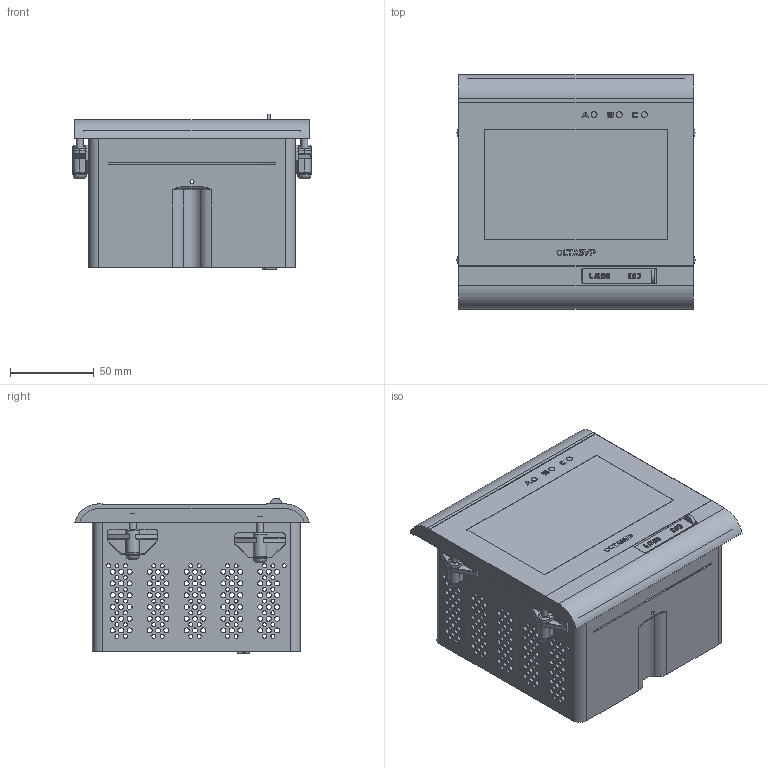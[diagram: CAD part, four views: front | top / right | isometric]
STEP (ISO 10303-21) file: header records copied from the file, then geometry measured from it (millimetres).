
FILE_DESCRIPTION (( 'STEP AP214' ), '1' );
FILE_NAME ('Á17-00.00_PLÑ 5i 03.00.STEP', '2023-10-06T11:30:30', ( '' ), ( '' ), 'SwSTEP 2.0', 'SolidWorks 2021', '' );
FILE_SCHEMA (( 'AUTOMOTIVE_DESIGN' ));
Length unit declared in the file: millimetre
Products named in the file (1): Á17-00.00_PLÑ 5i 03.00
Bounding box: 142 x 140 x 93 mm (x, y, z)
Surface area: 194591.7 mm2 (no closed solid volume)
Topology: 0 solids, 62 shells, 1260 faces, 5932 edges, 4630 vertices
Faces by surface type: plane 635, cylinder 525, bspline 60, cone 22, torus 18
Full cylindrical faces by diameter (mm): 2.4 x146, 2.5 x4, 3 x180, 3.6 x1, 4 x4, 5.5 x9, 8 x4
Entity records: 74635 total; most frequent: CARTESIAN_POINT 18471, DIRECTION 8123, ORIENTED_EDGE 7381, EDGE_CURVE 5229, VERTEX_POINT 4302, LINE 3301, VECTOR 3301, AXIS2_PLACEMENT_3D 2411
